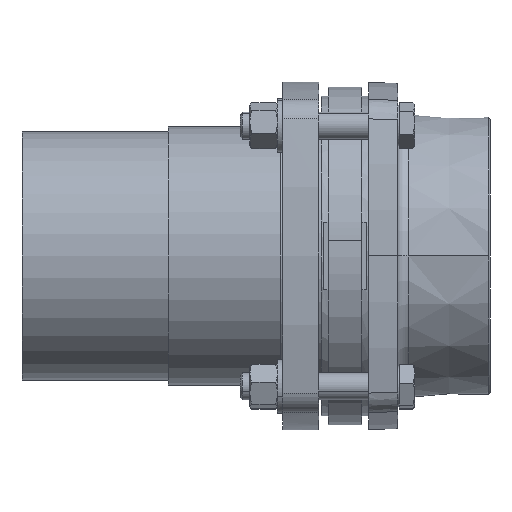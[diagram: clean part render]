
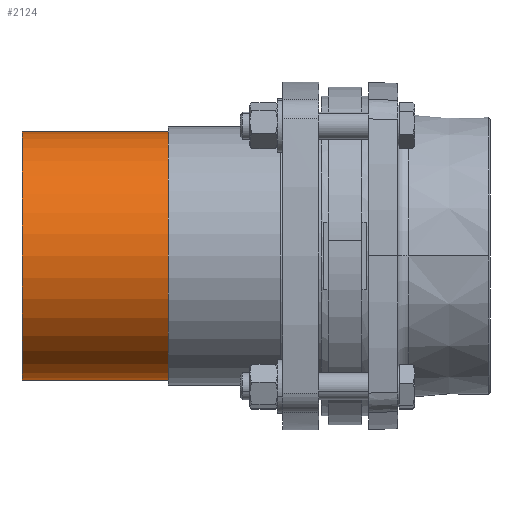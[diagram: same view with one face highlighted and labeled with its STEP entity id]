
A CAD part, front view. The second image highlights one B-rep face of the part: STEP entity #2124.
In plain terms, the highlighted cylindrical face has radius 55.25 mm (diameter 110.5 mm), a partial arc.
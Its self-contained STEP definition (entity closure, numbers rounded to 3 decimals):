
#230 = EDGE_CURVE ( 'NONE', #3841, #3826, #4841, .T. ) ;
#635 = ORIENTED_EDGE ( 'NONE', *, *, #2186, .F. ) ;
#636 = ORIENTED_EDGE ( 'NONE', *, *, #230, .F. ) ;
#637 = ORIENTED_EDGE ( 'NONE', *, *, #2188, .T. ) ;
#638 = ORIENTED_EDGE ( 'NONE', *, *, #8231, .T. ) ;
#1814 = CIRCLE ( 'NONE', #1817, 55.25 ) ;
#1817 = AXIS2_PLACEMENT_3D ( 'NONE', #11793, #11794, #11795 ) ;
#2124 = ADVANCED_FACE ( 'NONE', ( #11318 ), #11321, .T. ) ;
#2186 = EDGE_CURVE ( 'NONE', #3826, #3812, #11551, .T. ) ;
#2188 = EDGE_CURVE ( 'NONE', #3841, #3880, #11561, .T. ) ;
#3812 = VERTEX_POINT ( 'NONE', #10920 ) ;
#3826 = VERTEX_POINT ( 'NONE', #10934 ) ;
#3841 = VERTEX_POINT ( 'NONE', #10949 ) ;
#3880 = VERTEX_POINT ( 'NONE', #10988 ) ;
#4599 = CARTESIAN_POINT ( 'NONE',  ( -18., 0., 0. ) ) ;
#4600 = DIRECTION ( 'NONE',  ( 1., 0., 0. ) ) ;
#4601 = DIRECTION ( 'NONE',  ( 0., 0., -1. ) ) ;
#4841 = CIRCLE ( 'NONE', #4846, 55.25 ) ;
#4846 = AXIS2_PLACEMENT_3D ( 'NONE', #4599, #4600, #4601 ) ;
#5135 = EDGE_LOOP ( 'NONE', ( #635, #636, #637, #638 ) ) ;
#7478 = AXIS2_PLACEMENT_3D ( 'NONE', #11319, #11307, #11322 ) ;
#7560 = VECTOR ( 'NONE', #11562, 1000. ) ;
#7563 = VECTOR ( 'NONE', #11566, 1000. ) ;
#8231 = EDGE_CURVE ( 'NONE', #3880, #3812, #1814, .T. ) ;
#10920 = CARTESIAN_POINT ( 'NONE',  ( -133., 0., -55.25 ) ) ;
#10934 = CARTESIAN_POINT ( 'NONE',  ( -18., 0., -55.25 ) ) ;
#10949 = CARTESIAN_POINT ( 'NONE',  ( -18., 0., 55.25 ) ) ;
#10988 = CARTESIAN_POINT ( 'NONE',  ( -133., 0., 55.25 ) ) ;
#11307 = DIRECTION ( 'NONE',  ( -1., 0., 0. ) ) ;
#11318 = FACE_OUTER_BOUND ( 'NONE', #5135, .T. ) ;
#11319 = CARTESIAN_POINT ( 'NONE',  ( -18., 0., 0. ) ) ;
#11321 = CYLINDRICAL_SURFACE ( 'NONE', #7478, 55.25 ) ;
#11322 = DIRECTION ( 'NONE',  ( 0., 0., 1. ) ) ;
#11550 = CARTESIAN_POINT ( 'NONE',  ( -18., 0., -55.25 ) ) ;
#11551 = LINE ( 'NONE', #11550, #7560 ) ;
#11557 = CARTESIAN_POINT ( 'NONE',  ( -18., 0., 55.25 ) ) ;
#11561 = LINE ( 'NONE', #11557, #7563 ) ;
#11562 = DIRECTION ( 'NONE',  ( -1., 0., 0. ) ) ;
#11566 = DIRECTION ( 'NONE',  ( -1., 0., 0. ) ) ;
#11793 = CARTESIAN_POINT ( 'NONE',  ( -133., 0., 0. ) ) ;
#11794 = DIRECTION ( 'NONE',  ( 1., 0., 0. ) ) ;
#11795 = DIRECTION ( 'NONE',  ( 0., 0., -1. ) ) ;
